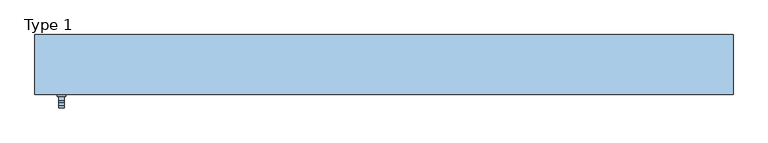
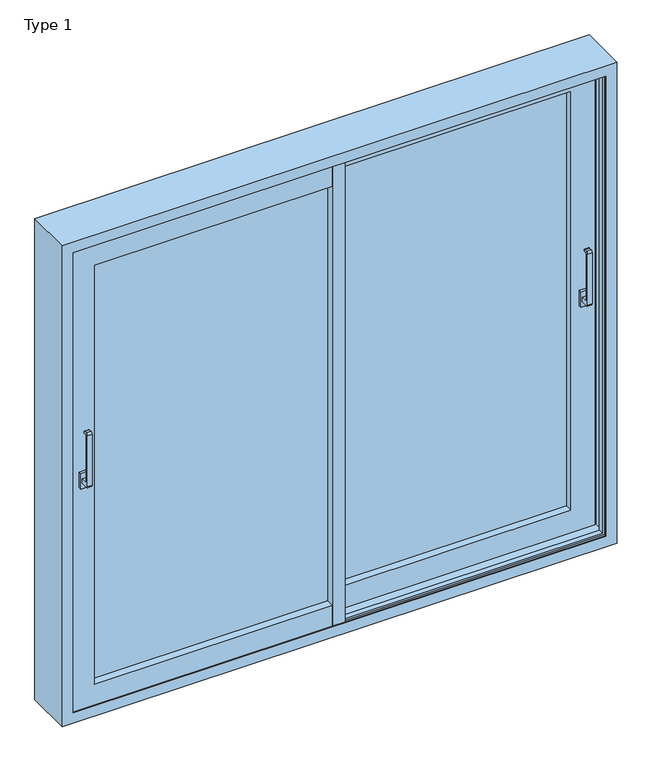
"""IFC4 building model written with IfcOpenShell, lengths in millimetres: window geometry, ETEM_ES70_Double_Fly Screen_NI_Lift_Sliding : Type 1."""

import ifcopenshell
import ifcopenshell.guid

model = None  # the IFC model being written
_history = None  # IfcOwnerHistory: only IFC2X3 demands one
_inside = {}  # id of a spatial element -> (the spatial element, [elements in it])
_under = {}  # id of a project, library or spatial element -> (it, [spatial elements below it])
_declared = {}  # id of a project -> (the project, [libraries it declares])
_typed = {}  # id of a type object -> (the type object, [elements of that type])
_made_of = {}  # id of a material, layer set ... -> (it, [elements and type objects made of it])


def new_model(schema):
    """Start an empty IFC model of exactly this schema.

    Asked for "IFC4X3", IfcOpenShell would pick the latest addendum, in which some entities
    have other attributes; the version numbers below select the first issue.
    IFC2X3 requires an IfcOwnerHistory on every rooted entity: one is made here for all.
    """
    global model, _history
    if schema == "IFC4X3":
        model = ifcopenshell.file(schema_version=(4, 3, 0, 0))
    else:
        model = ifcopenshell.file(schema=schema)
    _inside.clear()
    _under.clear()
    _declared.clear()
    _typed.clear()
    _made_of.clear()
    _history = None
    if model.schema == "IFC2X3":
        org = make("IfcOrganization", Name="unknown")
        user = make(
            "IfcPersonAndOrganization",
            ThePerson=make("IfcPerson", FamilyName="unknown"),
            TheOrganization=org,
        )
        app = make(
            "IfcApplication",
            ApplicationDeveloper=org,
            Version="unknown",
            ApplicationFullName="unknown",
            ApplicationIdentifier="unknown",
        )
        _history = make(
            "IfcOwnerHistory",
            OwningUser=user,
            OwningApplication=app,
            ChangeAction="ADDED",
            CreationDate=0,
        )
    return model


def make(cls, **values):
    """One entity of the class cls with the attributes given. An attribute that is None is left unset."""
    return model.create_entity(
        cls, **{name: value for name, value in values.items() if value is not None}
    )


def rooted(cls, **values):
    """An entity with a GlobalId (a new one), such as an element, a storey or a relation."""
    return make(cls, GlobalId=ifcopenshell.guid.new(), OwnerHistory=_history, **values)


def si_unit(unit_type, name, prefix=None):
    """IfcSIUnit, for example si_unit("LENGTHUNIT", "METRE", prefix="MILLI")."""
    return make("IfcSIUnit", UnitType=unit_type, Prefix=prefix, Name=name)


def assignment(units):
    """IfcUnitAssignment: the units of a project."""
    return None if units is None else make("IfcUnitAssignment", Units=units)


def point(xyz):
    """IfcCartesianPoint."""
    return None if xyz is None else make("IfcCartesianPoint", Coordinates=xyz)


def direction(xyz):
    """IfcDirection."""
    return None if xyz is None else make("IfcDirection", DirectionRatios=xyz)


def frame(location, z_axis=None, x_axis=None):
    """IfcAxis2Placement3D, a coordinate frame: its origin and axes. An axis left out is left unset."""
    return make(
        "IfcAxis2Placement3D",
        Location=point(location),
        Axis=direction(z_axis),
        RefDirection=direction(x_axis),
    )


def frame_2d(location, x_axis=None):
    """IfcAxis2Placement2D, a coordinate frame in the plane: its origin and x axis."""
    return make(
        "IfcAxis2Placement2D", Location=point(location), RefDirection=direction(x_axis)
    )


def origin():
    """The frame at (0, 0, 0) with its axes left unset."""
    return frame((0.0, 0.0, 0.0))


def place(relative_to, where):
    """IfcLocalPlacement: puts the frame where relative to a parent placement (None: the world)."""
    return make(
        "IfcLocalPlacement", PlacementRelTo=relative_to, RelativePlacement=where
    )


def context(
    kind, dimensions, precision=None, world=None, true_north=None, identifier=None
):
    """IfcGeometricRepresentationContext, for example the 3D "Model" context."""
    return make(
        "IfcGeometricRepresentationContext",
        ContextIdentifier=identifier,
        ContextType=kind,
        CoordinateSpaceDimension=dimensions,
        Precision=precision,
        WorldCoordinateSystem=world,
        TrueNorth=true_north,
    )


def project(units=None, contexts=None):
    """IfcProject with its units and contexts."""
    return rooted(
        "IfcProject",
        Name="project",
        RepresentationContexts=contexts,
        UnitsInContext=assignment(units),
    )


def spatial(cls, under=None, at=None, **own):
    """A site, building, storey or space (cls), placed at a placement, below another one or the project."""
    s = rooted(cls, ObjectPlacement=at, **own)
    if under is not None:
        _under.setdefault(under.id(), (under, []))[1].append(s)
    return s


def polyline(points):
    """IfcPolyline through the points."""
    return make("IfcPolyline", Points=[point(p) for p in points])


def circle_curve(where, radius):
    """IfcCircle in the frame where."""
    return make("IfcCircle", Position=where, Radius=radius)


def ellipse_curve(where, semi_axis1, semi_axis2):
    """IfcEllipse in the frame where."""
    return make(
        "IfcEllipse", Position=where, SemiAxis1=semi_axis1, SemiAxis2=semi_axis2
    )


def trimmed(basis, trim1, trim2, sense, master):
    """IfcTrimmedCurve: the piece of a basis curve between two trims."""
    return make(
        "IfcTrimmedCurve",
        BasisCurve=basis,
        Trim1=trim1,
        Trim2=trim2,
        SenseAgreement=sense,
        MasterRepresentation=master,
    )


def segment(curve, same_sense, transition):
    """IfcCompositeCurveSegment."""
    return make(
        "IfcCompositeCurveSegment",
        Transition=transition,
        SameSense=same_sense,
        ParentCurve=curve,
    )


def composite_curve(segments, self_intersect=None):
    """IfcCompositeCurve: segments joined end to end."""
    return make("IfcCompositeCurve", Segments=segments, SelfIntersect=self_intersect)


def outline(outer, holes=None, kind="AREA"):
    """IfcArbitraryClosedProfileDef: a profile drawn as a closed curve; with holes, ...WithVoids."""
    if holes is None:
        return make("IfcArbitraryClosedProfileDef", ProfileType=kind, OuterCurve=outer)
    return make(
        "IfcArbitraryProfileDefWithVoids",
        ProfileType=kind,
        OuterCurve=outer,
        InnerCurves=holes,
    )


def extrude(swept, where, along, depth):
    """IfcExtrudedAreaSolid: the profile swept, set in the frame where, extruded along a direction by depth."""
    return make(
        "IfcExtrudedAreaSolid",
        SweptArea=swept,
        Position=where,
        ExtrudedDirection=direction(along),
        Depth=depth,
    )


def faces_of(points, faces, orient=None, outer=None):
    """IfcFace entities. A face is a list of loops; a loop is a list of indices into points, from 0.

    orient and outer hold one flag for each loop. By default every Orientation is true, the
    first loop of a face is its IfcFaceOuterBound and the others are IfcFaceBound.
    """
    made = []
    for i, loops in enumerate(faces):
        bounds = []
        for j, loop in enumerate(loops):
            is_outer = j == 0 if outer is None else outer[i][j]
            bounds.append(
                make(
                    "IfcFaceOuterBound" if is_outer else "IfcFaceBound",
                    Bound=make("IfcPolyLoop", Polygon=[points[k] for k in loop]),
                    Orientation=True if orient is None else orient[i][j],
                )
            )
        made.append(make("IfcFace", Bounds=bounds))
    return made


def faceted_brep(points, faces, orient=None, outer=None, voids=None):
    """IfcFacetedBrep: a solid bounded by flat faces; with voids (closed shells), ...WithVoids."""
    shared = [point(p) for p in points]
    hull = make("IfcClosedShell", CfsFaces=faces_of(shared, faces, orient, outer))
    if voids is None:
        return make("IfcFacetedBrep", Outer=hull)
    return make(
        "IfcFacetedBrepWithVoids",
        Outer=hull,
        Voids=[
            make(cls, CfsFaces=faces_of(shared, fs, o, b)) for cls, fs, o, b in voids
        ],
    )


def shape(context_of_items, identifier, shape_type, items):
    """IfcShapeRepresentation: the items that make up one representation, for example the "Body"."""
    return make(
        "IfcShapeRepresentation",
        ContextOfItems=context_of_items,
        RepresentationIdentifier=identifier,
        RepresentationType=shape_type,
        Items=items,
    )


def source(mapping_origin, context_of_items, identifier, shape_type, items):
    """IfcRepresentationMap: a shape defined once, which mapped items show again and again."""
    return make(
        "IfcRepresentationMap",
        MappingOrigin=mapping_origin,
        MappedRepresentation=shape(context_of_items, identifier, shape_type, items),
    )


def transform(
    local_origin,
    x_axis=None,
    y_axis=None,
    z_axis=None,
    scale=None,
    scale2=None,
    scale3=None,
    uniform=True,
):
    """IfcCartesianTransformationOperator3D, or its non-uniform kind. x_axis, y_axis, z_axis: its Axis1, 2, 3."""
    if uniform:
        return make(
            "IfcCartesianTransformationOperator3D",
            Axis1=direction(x_axis),
            Axis2=direction(y_axis),
            LocalOrigin=point(local_origin),
            Scale=scale,
            Axis3=direction(z_axis),
        )
    return make(
        "IfcCartesianTransformationOperator3DnonUniform",
        Axis1=direction(x_axis),
        Axis2=direction(y_axis),
        LocalOrigin=point(local_origin),
        Scale=scale,
        Axis3=direction(z_axis),
        Scale2=scale2,
        Scale3=scale3,
    )


def mapped(mapping_source, mapping_target):
    """IfcMappedItem: shows the shape of a source again, moved by a transform."""
    return make(
        "IfcMappedItem", MappingSource=mapping_source, MappingTarget=mapping_target
    )


def made_of(thing, what):
    """Note that an element or type object is made of a material, layer set ...; save() writes the relation."""
    if what is not None:
        _made_of.setdefault(what.id(), (what, []))[1].append(thing)
    return thing


def element(
    cls,
    number,
    at=None,
    inside=None,
    cuts=None,
    type_object=None,
    material=None,
    context=None,
    identifier="Body",
    shape_type=None,
    held_by="IfcProductDefinitionShape",
    body=None,
    shapes=None,
    **own,
):
    """One element of the class cls, such as IfcWall. Its Tag is "e" and its number.

    at: its placement. inside: the storey or other place that contains it. cuts: it is an
    opening in that element (IfcRelVoidsElement). A single representation is given by context,
    identifier, shape_type and body (its items); several are given by shapes. held_by: the class
    of the entity that holds the representations. save() writes the other relations.
    """
    e = rooted(cls, Tag="e%d" % number, ObjectPlacement=at, **own)
    if body is not None:
        shapes = [shape(context, identifier, shape_type, body)]
    if shapes is not None:
        e.Representation = make(held_by, Representations=shapes)
    if inside is not None:
        _inside.setdefault(inside.id(), (inside, []))[1].append(e)
    if cuts is not None:
        rooted(
            "IfcRelVoidsElement", RelatingBuildingElement=cuts, RelatedOpeningElement=e
        )
    if type_object is not None:
        _typed.setdefault(type_object.id(), (type_object, []))[1].append(e)
    return made_of(e, material)


def aggregate(whole, parts):
    """IfcRelAggregates: a whole, such as a stair, and the parts it consists of."""
    return rooted("IfcRelAggregates", RelatingObject=whole, RelatedObjects=parts)


def save(model, path):
    """Write the relations noted so far, then the file.

    IfcRelAggregates (storeys below a building ...), IfcRelContainedInSpatialStructure (elements
    in a storey), IfcRelDefinesByType, IfcRelAssociatesMaterial and IfcRelDeclares: one each for
    every whole, place, type object, material and project.
    """
    for whole, parts in _under.values():
        aggregate(whole, parts)
    for where, things in _inside.values():
        rooted(
            "IfcRelContainedInSpatialStructure",
            RelatedElements=things,
            RelatingStructure=where,
        )
    for kind, things in _typed.values():
        rooted("IfcRelDefinesByType", RelatedObjects=things, RelatingType=kind)
    for what, things in _made_of.values():
        rooted("IfcRelAssociatesMaterial", RelatedObjects=things, RelatingMaterial=what)
    for by, libraries in _declared.values():
        rooted("IfcRelDeclares", RelatingContext=by, RelatedDefinitions=libraries)
    model.write(path)


def plane_surface(at):
    """IfcPlane: the flat surface through the origin of the frame at, square to its z axis."""
    return make("IfcPlane", Position=at)


def cylinder_surface(at, radius):
    """IfcCylindricalSurface: all points at the distance radius from the z axis of the frame at."""
    return make("IfcCylindricalSurface", Position=at, Radius=radius)


def revolved_surface(curve, axis_point, axis_direction):
    """IfcSurfaceOfRevolution: the curve turned about the line through axis_point along axis_direction."""
    return make(
        "IfcSurfaceOfRevolution",
        SweptCurve=make("IfcArbitraryOpenProfileDef", ProfileType="CURVE", Curve=curve),
        AxisPosition=make("IfcAxis1Placement", Location=point(axis_point), Axis=direction(axis_direction)),
    )


def advanced_brep(points, edges, surfaces, faces):
    """IfcAdvancedBrep: a solid bounded by faces that lie on surfaces and meet in shared edges.

    An edge is (start, end): straight between two places in points (the first is 0);
    or (start, end, curve); or (start, end, curve, False) where it runs against its curve.
    A face is (place in surfaces, loops), or (place, loops, False) where it looks against
    its surface's normal. A loop lists edges by number (the first is 1), with a minus sign
    where the edge is run from its end to its start. The first loop is the outer one.
    """
    corners = [point(p) for p in points]
    vertices = [make("IfcVertexPoint", VertexGeometry=c) for c in corners]
    made = []
    for start, end, *more in edges:
        made.append(
            make(
                "IfcEdgeCurve",
                EdgeStart=vertices[start],
                EdgeEnd=vertices[end],
                EdgeGeometry=more[0] if more else make("IfcPolyline", Points=[corners[start], corners[end]]),
                SameSense=more[1] if len(more) > 1 else True,
            )
        )
    hull = []
    for where, loops, *sense in faces:
        bounds = []
        for j, loop in enumerate(loops):
            ring = [make("IfcOrientedEdge", EdgeElement=made[abs(k) - 1], Orientation=k > 0) for k in loop]
            bounds.append(
                make(
                    "IfcFaceOuterBound" if j == 0 else "IfcFaceBound",
                    Bound=make("IfcEdgeLoop", EdgeList=ring),
                    Orientation=True,
                )
            )
        hull.append(make("IfcAdvancedFace", Bounds=bounds, FaceSurface=surfaces[where], SameSense=sense[0] if sense else True))
    return make("IfcAdvancedBrep", Outer=make("IfcClosedShell", CfsFaces=hull))


def type_1_cdd2e482(model_context):
    return source(origin(), model_context, "Body", "SolidModel", [
        extrude(outline(polyline([(1123.5, 7.6), (1093.5, 7.6), (1093.5, 20.6), (1123.5, 20.6), (1123.5, 7.6)])), frame((0.0, 0.0, 1065.0), z_axis=(0.0, 0.0, 1.0), x_axis=(1.0, 0.0, 0.0)), (0.0, 0.0, 1.0), 70.0),
        extrude(outline(composite_curve([segment(polyline([(7.6, 1090.0), (-23.9736848, 1090.0)]), True, "CONTINUOUS"), segment(trimmed(circle_curve(frame_2d((-23.9736848, 1098.4263152)), 8.4263152), [point((-23.9736848, 1090.0))], [point((-32.4, 1098.4263152))], False, "CARTESIAN"), True, "CONTINUOUS"), segment(polyline([(-32.4, 1098.4263152), (-32.4, 1331.5736848)]), True, "CONTINUOUS"), segment(trimmed(circle_curve(frame_2d((-23.9736848, 1331.5736848)), 8.4263152), [point((-32.4, 1331.5736848))], [point((-23.9736848, 1340.0))], False, "CARTESIAN"), True, "CONTINUOUS"), segment(polyline([(-23.9736848, 1340.0), (-12.4, 1340.0)]), True, "CONTINUOUS"), segment(trimmed(circle_curve(frame_2d((-12.4, 1335.0)), 5.0), [point((-12.4, 1340.0))], [point((-12.4, 1330.0))], False, "CARTESIAN"), True, "CONTINUOUS"), segment(polyline([(-12.4, 1330.0), (-18.8644661, 1330.0)]), True, "CONTINUOUS"), segment(trimmed(circle_curve(frame_2d((-18.8644661, 1326.4644661)), 3.5355339), [point((-18.8644661, 1330.0))], [point((-22.4, 1326.4644661))], True, "CARTESIAN"), True, "CONTINUOUS"), segment(polyline([(-22.4, 1326.4644661), (-22.4, 1113.5355339)]), True, "CONTINUOUS"), segment(trimmed(circle_curve(frame_2d((-18.8644661, 1113.5355339)), 3.5355339), [point((-22.4, 1113.5355339))], [point((-18.8644661, 1110.0))], True, "CARTESIAN"), True, "CONTINUOUS"), segment(polyline([(-18.8644661, 1110.0), (7.6, 1110.0), (7.6, 1090.0)]), True, "CONTINUOUS")], self_intersect=False)), frame((1098.5, 0.0, 0.0), z_axis=(1.0, 0.0, 0.0), x_axis=(0.0, 1.0, 0.0)), (0.0, 0.0, 1.0), 20.0),
        extrude(outline(polyline([(-1093.5, -82.4), (-1123.5, -82.4), (-1123.5, -69.4), (-1093.5, -69.4), (-1093.5, -82.4)])), frame((0.0, 0.0, 1065.0), z_axis=(0.0, 0.0, 1.0), x_axis=(1.0, 0.0, 0.0)), (0.0, 0.0, 1.0), 70.0),
        extrude(outline(composite_curve([segment(polyline([(-82.4, 1090.0), (-113.9736848, 1090.0)]), True, "CONTINUOUS"), segment(trimmed(circle_curve(frame_2d((-113.9736848, 1098.4263152)), 8.4263152), [point((-113.9736848, 1090.0))], [point((-122.4, 1098.4263152))], False, "CARTESIAN"), True, "CONTINUOUS"), segment(polyline([(-122.4, 1098.4263152), (-122.4, 1331.5736848)]), True, "CONTINUOUS"), segment(trimmed(circle_curve(frame_2d((-113.9736848, 1331.5736848)), 8.4263152), [point((-122.4, 1331.5736848))], [point((-113.9736848, 1340.0))], False, "CARTESIAN"), True, "CONTINUOUS"), segment(polyline([(-113.9736848, 1340.0), (-102.4, 1340.0)]), True, "CONTINUOUS"), segment(trimmed(circle_curve(frame_2d((-102.4, 1335.0)), 5.0), [point((-102.4, 1340.0))], [point((-102.4, 1330.0))], False, "CARTESIAN"), True, "CONTINUOUS"), segment(polyline([(-102.4, 1330.0), (-108.8644661, 1330.0)]), True, "CONTINUOUS"), segment(trimmed(circle_curve(frame_2d((-108.8644661, 1326.4644661)), 3.5355339), [point((-108.8644661, 1330.0))], [point((-112.4, 1326.4644661))], True, "CARTESIAN"), True, "CONTINUOUS"), segment(polyline([(-112.4, 1326.4644661), (-112.4, 1113.5355339)]), True, "CONTINUOUS"), segment(trimmed(circle_curve(frame_2d((-108.8644661, 1113.5355339)), 3.5355339), [point((-112.4, 1113.5355339))], [point((-108.8644661, 1110.0))], True, "CARTESIAN"), True, "CONTINUOUS"), segment(polyline([(-108.8644661, 1110.0), (-82.4, 1110.0), (-82.4, 1090.0)]), True, "CONTINUOUS")], self_intersect=False)), frame((-1118.5, 0.0, 0.0), z_axis=(1.0, 0.0, 0.0), x_axis=(0.0, 1.0, 0.0)), (0.0, 0.0, 1.0), 20.0),
        faceted_brep([(-27.0, -57.0, 39.0), (-27.0, -69.4, 39.0), (-1161.0, -69.4, 39.0), (-1161.0, -57.0, 39.0), (-27.0, -11.8, 70.1), (-27.0, -57.0, 70.1), (-1129.9, -57.0, 70.1), (-1129.9, -11.8, 70.1), (-27.0, 0.6, 39.0), (-27.0, -11.8, 39.0), (-1161.0, -11.8, 39.0), (-1161.0, 0.6, 39.0), (-27.0, -69.4, 142.0), (-27.0, 0.6, 142.0), (-1058.0, 0.6, 142.0), (-1058.0, -69.4, 142.0), (-1161.0, -69.4, 2161.0), (-1161.0, -57.0, 2161.0), (-1129.9, -57.0, 2129.9), (-1129.9, -11.8, 2129.9), (-1161.0, -11.8, 2161.0), (-1161.0, 0.6, 2161.0), (-1058.0, 0.6, 2058.0), (-1058.0, -69.4, 2058.0), (-27.0, -69.4, 2161.0), (-27.0, -57.0, 2161.0), (-27.0, -57.0, 2129.9), (-27.0, -11.8, 2129.9), (-27.0, -11.8, 2161.0), (-27.0, 0.6, 2161.0), (-27.0, 0.6, 2058.0), (-27.0, -69.4, 2058.0)], [[[0, 1, 2, 3]], [[4, 5, 6, 7]], [[8, 9, 10, 11]], [[12, 13, 14, 15]], [[3, 2, 16, 17]], [[7, 6, 18, 19]], [[11, 10, 20, 21]], [[15, 14, 22, 23]], [[17, 16, 24, 25]], [[19, 18, 26, 27]], [[21, 20, 28, 29]], [[23, 22, 30, 31]], [[12, 1, 0, 5, 4, 9, 8, 13]], [[1, 12, 15, 23, 31, 24, 16, 2]], [[5, 0, 3, 17, 25, 26, 18, 6]], [[9, 4, 7, 19, 27, 28, 20, 10]], [[13, 8, 11, 21, 29, 30, 22, 14]], [[31, 30, 29, 28, 27, 26, 25, 24]]]),
        extrude(outline(polyline([(27.0, -69.4), (-27.0, -69.4), (-27.0, 0.6), (18.6, 0.6), (18.6, 16.6), (27.0, 16.6), (27.0, -69.4)])), frame((0.0, 0.0, 39.0), z_axis=(0.0, 0.0, 1.0), x_axis=(1.0, 0.0, 0.0)), (0.0, 0.0, 1.0), 2122.0),
        extrude(outline(polyline([(-27.0, 90.6), (27.0, 90.6), (27.0, 20.6), (-18.6, 20.6), (-18.6, 4.6), (-27.0, 4.6), (-27.0, 90.6)])), frame((0.0, 0.0, 39.0), z_axis=(0.0, 0.0, 1.0), x_axis=(1.0, 0.0, 0.0)), (0.0, 0.0, 1.0), 2122.0),
        extrude(outline(polyline([(-27.0, -35.3992409), (-1058.0, -35.3992409), (-1058.0, -29.3992409), (-27.0, -29.3992409), (-27.0, -35.3992409)])), frame((0.0, 0.0, 142.0), z_axis=(0.0, 0.0, 1.0), x_axis=(1.0, 0.0, 0.0)), (0.0, 0.0, 1.0), 1916.0),
        extrude(outline(polyline([(27.0, 82.6007591), (1058.0, 82.6007591), (1058.0, 76.6007591), (27.0, 76.6007591), (27.0, 82.6007591)])), frame((0.0, 0.0, 142.0), z_axis=(0.0, 0.0, 1.0), x_axis=(1.0, 0.0, 0.0)), (0.0, 0.0, 1.0), 1916.0),
        faceted_brep([(1200.0, -76.0, 2200.0), (1200.0, -76.0, 0.0), (1200.0, 130.0, 0.0), (1200.0, 130.0, 2200.0), (-1200.0, -76.0, 2200.0), (-1200.0, -76.0, 0.0), (1152.0, -76.0, 48.0), (-1152.0, -76.0, 48.0), (-1152.0, -76.0, 2152.0), (1152.0, -76.0, 2152.0), (-1200.0, 130.0, 0.0), (-1200.0, 130.0, 2200.0), (1183.7, 130.0, 2183.7), (-1183.7, 130.0, 2183.7), (-1183.7, 130.0, 16.3), (1183.7, 130.0, 16.3), (1183.7, 60.1, 2183.7), (1183.7, 109.1, 2183.7), (1183.7, 109.1, 16.3), (1183.7, 60.1, 16.3), (-1183.7, 109.1, 2183.7), (-1183.7, 109.1, 16.3), (1152.0, 109.1, 48.0), (-1152.0, 109.1, 48.0), (-1152.0, 109.1, 2152.0), (1152.0, 109.1, 2152.0), (-1183.7, 60.1, 16.3), (-1183.7, 60.1, 2183.7), (1160.0, 60.1, 2160.0), (-1160.0, 60.1, 2160.0), (-1160.0, 60.1, 40.0), (1160.0, 60.1, 40.0), (1160.0, 74.1, 2160.0), (1160.0, 74.1, 40.0), (-1160.0, 74.1, 40.0), (-1160.0, 74.1, 2160.0), (1152.0, 74.1, 2152.0), (-1152.0, 74.1, 2152.0), (-1152.0, 74.1, 48.0), (1152.0, 74.1, 48.0), (1152.0, 51.1, 2152.0), (1152.0, 51.1, 48.0), (-1152.0, 51.1, 48.0), (1183.7, 51.1, 2183.7), (-1183.7, 51.1, 2183.7), (-1183.7, 51.1, 16.3), (1183.7, 51.1, 16.3), (-1152.0, 51.1, 2152.0), (1183.7, -29.9, 2183.7), (1183.7, -29.9, 16.3), (-1183.7, -29.9, 16.3), (-1183.7, -29.9, 2183.7), (1152.0, -29.9, 2152.0), (-1152.0, -29.9, 2152.0), (-1152.0, -29.9, 48.0), (1152.0, -29.9, 48.0), (1152.0, -52.9, 2152.0), (1152.0, -52.9, 48.0), (-1152.0, -52.9, 48.0), (1160.0, -52.9, 2160.0), (-1160.0, -52.9, 2160.0), (-1160.0, -52.9, 40.0), (1160.0, -52.9, 40.0), (-1152.0, -52.9, 2152.0), (1160.0, -38.9, 2160.0), (1160.0, -38.9, 40.0), (-1160.0, -38.9, 40.0), (1183.7, -38.9, 2183.7), (-1183.7, -38.9, 2183.7), (-1183.7, -38.9, 16.3), (1183.7, -38.9, 16.3), (-1160.0, -38.9, 2160.0), (1183.7, -72.2, 2183.7), (1183.7, -72.2, 16.3), (-1183.7, -72.2, 16.3), (-1183.7, -72.2, 2183.7), (1152.0, -72.2, 2152.0), (-1152.0, -72.2, 2152.0), (-1152.0, -72.2, 48.0), (1152.0, -72.2, 48.0), (-1183.7, 118.1, 16.3), (-1183.7, 118.1, 2183.7), (1183.7, 118.1, 16.3), (1183.7, 118.1, 2183.7), (1152.0, 118.1, 2152.0), (-1152.0, 118.1, 2152.0), (-1152.0, 118.1, 48.0), (1152.0, 118.1, 48.0)], [[[0, 1, 2, 3]], [[0, 4, 5, 1], [6, 7, 8, 9]], [[2, 1, 5, 10]], [[2, 10, 11, 3], [12, 13, 14, 15]], [[16, 17, 18, 19]], [[17, 20, 21, 18], [22, 23, 24, 25]], [[19, 18, 21, 26]], [[19, 26, 27, 16], [28, 29, 30, 31]], [[32, 28, 31, 33]], [[33, 31, 30, 34]], [[33, 34, 35, 32], [36, 37, 38, 39]], [[40, 36, 39, 41]], [[41, 39, 38, 42]], [[43, 44, 45, 46], [41, 42, 47, 40]], [[48, 43, 46, 49]], [[49, 46, 45, 50]], [[49, 50, 51, 48], [52, 53, 54, 55]], [[56, 52, 55, 57]], [[57, 55, 54, 58]], [[59, 60, 61, 62], [57, 58, 63, 56]], [[64, 59, 62, 65]], [[65, 62, 61, 66]], [[67, 68, 69, 70], [65, 66, 71, 64]], [[72, 67, 70, 73]], [[73, 70, 69, 74]], [[73, 74, 75, 72], [76, 77, 78, 79]], [[9, 76, 79, 6]], [[6, 79, 78, 7]], [[10, 5, 4, 11]], [[26, 21, 20, 27]], [[34, 30, 29, 35]], [[42, 38, 37, 47]], [[50, 45, 44, 51]], [[58, 54, 53, 63]], [[66, 61, 60, 71]], [[74, 69, 68, 75]], [[7, 78, 77, 8]], [[80, 14, 13, 81]], [[82, 15, 14, 80]], [[83, 12, 15, 82]], [[82, 80, 81, 83], [84, 85, 86, 87]], [[25, 84, 87, 22]], [[22, 87, 86, 23]], [[23, 86, 85, 24]], [[11, 4, 0, 3]], [[27, 20, 17, 16]], [[35, 29, 28, 32]], [[47, 37, 36, 40]], [[51, 44, 43, 48]], [[63, 53, 52, 56]], [[71, 60, 59, 64]], [[75, 68, 67, 72]], [[8, 77, 76, 9]], [[81, 13, 12, 83]], [[24, 85, 84, 25]]]),
        extrude(outline(polyline([(27.0, 60.6007591), (1058.0, 60.6007591), (1058.0, 54.6007591), (27.0, 54.6007591), (27.0, 60.6007591)])), frame((0.0, 0.0, 142.0), z_axis=(0.0, 0.0, 1.0), x_axis=(1.0, 0.0, 0.0)), (0.0, 0.0, 1.0), 1916.0),
        extrude(outline(polyline([(-27.0, -13.3992409), (-1058.0, -13.3992409), (-1058.0, -7.3992409), (-27.0, -7.3992409), (-27.0, -13.3992409)])), frame((0.0, 0.0, 142.0), z_axis=(0.0, 0.0, 1.0), x_axis=(1.0, 0.0, 0.0)), (0.0, 0.0, 1.0), 1916.0),
        extrude(outline(polyline([(-34.0, 101.6138518), (-1100.0, 101.6138518), (-1100.0, 102.6138518), (-34.0, 102.6138518), (-34.0, 101.6138518)])), frame((0.0, 0.0, 100.0), z_axis=(0.0, 0.0, 1.0), x_axis=(1.0, 0.0, 0.0)), (0.0, 0.0, 1.0), 2000.0),
        advanced_brep(
        [(-30.6, 98.8, 2103.4), (-30.6, 102.6138518, 2103.4), (-30.6, 102.6138518, 96.6), (-30.6, 98.8, 96.6), (-1103.4, 102.6138518, 2103.4), (-1103.4, 102.6138518, 96.6), (-38.0, 102.6138518, 104.0), (-1096.0, 102.6138518, 104.0), (-1096.0, 102.6138518, 2096.0), (-38.0, 102.6138518, 2096.0), (-1103.4, 98.8, 96.6), (-28.6, 98.8, 2105.4), (-1105.4, 98.8, 2105.4), (-1105.4, 98.8, 94.6), (-28.6, 98.8, 94.6), (-1103.4, 98.8, 2103.4), (-28.6543214, 99.9975359, 2105.3456786), (-28.6543214, 99.9975359, 94.6543214), (-1105.3456786, 99.9975359, 94.6543214), (-29.2, 100.5, 2104.8), (-29.2, 100.5, 95.2), (-1104.8, 100.5, 95.2), (-29.2, 106.6, 2104.8), (-29.2, 106.6, 95.2), (-1104.8, 106.6, 95.2), (-8.7, 106.6, 2125.3), (-1125.3, 106.6, 2125.3), (-1125.3, 106.6, 74.7), (-8.7, 106.6, 74.7), (-1104.8, 106.6, 2104.8), (-8.7, 97.6, 2125.3), (-8.7, 97.6, 74.7), (-1125.3, 97.6, 74.7), (27.0, 97.6, 2161.0), (-1161.0, 97.6, 2161.0), (-1161.0, 97.6, 39.0), (27.0, 97.6, 39.0), (-1125.3, 97.6, 2125.3), (27.0, 104.8, 2161.0), (27.0, 104.8, 39.0), (-1161.0, 104.8, 39.0), (-1161.0, 104.8, 2161.0), (14.8, 104.8, 2148.8), (-1148.8, 104.8, 2148.8), (-1148.8, 104.8, 51.2), (14.8, 104.8, 51.2), (14.8, 122.4, 2148.8), (14.8, 122.4, 51.2), (-1148.8, 122.4, 51.2), (27.0, 122.4, 2161.0), (-1161.0, 122.4, 2161.0), (-1161.0, 122.4, 39.0), (27.0, 122.4, 39.0), (-1148.8, 122.4, 2148.8), (27.0, 129.6, 2161.0), (27.0, 129.6, 39.0), (-1161.0, 129.6, 39.0), (-1161.0, 129.6, 2161.0), (-8.7, 129.6, 2125.3), (-1125.3, 129.6, 2125.3), (-1125.3, 129.6, 74.7), (-8.7, 129.6, 74.7), (-8.7, 120.4, 2125.3), (-8.7, 120.4, 74.7), (-1125.3, 120.4, 74.7), (-1125.3, 120.4, 2125.3), (-25.5, 120.4, 2108.5), (-1108.5, 120.4, 2108.5), (-1108.5, 120.4, 91.5), (-25.5, 120.4, 91.5), (-25.5, 129.6, 2108.5), (-25.5, 129.6, 91.5), (-1108.5, 129.6, 91.5), (-1108.5, 129.6, 2108.5), (-38.0, 129.6, 2096.0), (-1096.0, 129.6, 2096.0), (-1096.0, 129.6, 104.0), (-38.0, 129.6, 104.0), (-1105.3456786, 99.9975359, 2105.3456786), (-1104.8, 100.5, 2104.8)],
        [
            (0, 1),
            (1, 2),
            (2, 3),
            (3, 0),
            (1, 4),
            (4, 5),
            (5, 2),
            (6, 7),
            (7, 8),
            (8, 9),
            (9, 6),
            (5, 10),
            (10, 3),
            (11, 12),
            (12, 13),
            (13, 14),
            (14, 11),
            (10, 15),
            (15, 0),
            (16, 11, ellipse_curve(frame((-28.6, 99.4, 2105.4), z_axis=(0.7071067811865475, 0.0, -0.7071067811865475), x_axis=(0.7071067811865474, 0.0, 0.7071067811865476)), 0.8485281, 0.6)),
            (14, 17, ellipse_curve(frame((-28.6, 99.4, 94.6), z_axis=(0.7071067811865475, 0.0, 0.7071067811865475), x_axis=(-0.7071067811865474, 0.0, 0.7071067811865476)), 0.8485281, 0.6)),
            (17, 16),
            (13, 18, ellipse_curve(frame((-1105.4, 99.4, 94.6), z_axis=(0.7071067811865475, 0.0, -0.7071067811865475), x_axis=(0.7071067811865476, 0.0, 0.7071067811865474)), 0.8485281, 0.6)),
            (18, 17),
            (19, 16, ellipse_curve(frame((-28.7, 100.5, 2105.3), z_axis=(-0.7071067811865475, 0.0, 0.7071067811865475), x_axis=(-0.7071067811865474, 0.0, -0.7071067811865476)), 0.7071068, 0.5)),
            (17, 20, ellipse_curve(frame((-28.7, 100.5, 94.7), z_axis=(-0.7071067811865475, 0.0, -0.7071067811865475), x_axis=(0.7071067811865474, 0.0, -0.7071067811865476)), 0.7071068, 0.5)),
            (20, 19),
            (18, 21, ellipse_curve(frame((-1105.3, 100.5, 94.7), z_axis=(-0.7071067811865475, 0.0, 0.7071067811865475), x_axis=(-0.7071067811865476, 0.0, -0.7071067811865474)), 0.7071068, 0.5)),
            (21, 20),
            (22, 19),
            (20, 23),
            (23, 22),
            (21, 24),
            (24, 23),
            (25, 26),
            (26, 27),
            (27, 28),
            (28, 25),
            (24, 29),
            (29, 22),
            (30, 25),
            (28, 31),
            (31, 30),
            (27, 32),
            (32, 31),
            (33, 34),
            (34, 35),
            (35, 36),
            (36, 33),
            (32, 37),
            (37, 30),
            (38, 33),
            (36, 39),
            (39, 38),
            (35, 40),
            (40, 39),
            (40, 41),
            (41, 38),
            (42, 43),
            (43, 44),
            (44, 45),
            (45, 42),
            (46, 42),
            (45, 47),
            (47, 46),
            (44, 48),
            (48, 47),
            (49, 50),
            (50, 51),
            (51, 52),
            (52, 49),
            (48, 53),
            (53, 46),
            (54, 49),
            (52, 55),
            (55, 54),
            (51, 56),
            (56, 55),
            (56, 57),
            (57, 54),
            (58, 59),
            (59, 60),
            (60, 61),
            (61, 58),
            (62, 58),
            (61, 63),
            (63, 62),
            (60, 64),
            (64, 63),
            (64, 65),
            (65, 62),
            (66, 67),
            (67, 68),
            (68, 69),
            (69, 66),
            (70, 66),
            (69, 71),
            (71, 70),
            (68, 72),
            (72, 71),
            (72, 73),
            (73, 70),
            (74, 75),
            (75, 76),
            (76, 77),
            (77, 74),
            (9, 74),
            (77, 6),
            (76, 7),
            (4, 15),
            (12, 78, ellipse_curve(frame((-1105.4, 99.4, 2105.4), z_axis=(-0.7071067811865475, 0.0, -0.7071067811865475), x_axis=(0.7071067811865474, 0.0, -0.7071067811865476)), 0.8485281, 0.6)),
            (78, 18),
            (78, 79, ellipse_curve(frame((-1105.3, 100.5, 2105.3), z_axis=(0.7071067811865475, 0.0, 0.7071067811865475), x_axis=(-0.7071067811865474, 0.0, 0.7071067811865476)), 0.7071068, 0.5)),
            (79, 21),
            (79, 29),
            (26, 37),
            (34, 41),
            (43, 53),
            (50, 57),
            (59, 65),
            (67, 73),
            (75, 8),
            (16, 78),
            (19, 79),
        ],
        [
            plane_surface(frame((-30.6, 102.6138518, 2103.4), z_axis=(-1.0, 0.0, 0.0), x_axis=(0.0, 0.0, -1.0))),
            plane_surface(frame((-1096.0, 102.6138518, 2096.0), z_axis=(0.0, -1.0, 0.0), x_axis=(1.0, 0.0, 0.0))),
            plane_surface(frame((-30.6, 102.6138518, 96.6), z_axis=(0.0, 0.0, 1.0), x_axis=(-1.0, 0.0, 0.0))),
            plane_surface(frame((-1103.4, 98.8, 2103.4), z_axis=(0.0, -1.0, 0.0), x_axis=(1.0, 0.0, 0.0))),
            cylinder_surface(frame((-28.6, 99.4, 2161.0), z_axis=(0.0, 0.0, 1.0), x_axis=(1.0, 0.0, 0.0)), 0.6),
            cylinder_surface(frame((27.0, 99.4, 94.6), z_axis=(1.0, 0.0, 0.0), x_axis=(0.0, 0.0, -1.0)), 0.6),
            revolved_surface(polyline([(-28.2, 100.5, 94.19999998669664), (-28.2, 100.5, 2105.8000000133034)]), (-28.7, 100.5, 2161.0), (0.0, 0.0, -1.0)),
            revolved_surface(polyline([(-1105.8000000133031, 100.5, 94.2), (-28.19999998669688, 100.5, 94.2)]), (27.0, 100.5, 94.7), (-1.0, 0.0, 0.0)),
            plane_surface(frame((-29.2, 100.5, 2104.8), z_axis=(1.0, 0.0, 0.0), x_axis=(0.0, 0.0, -1.0))),
            plane_surface(frame((-29.2, 100.5, 95.2), z_axis=(0.0, 0.0, -1.0), x_axis=(-1.0, 0.0, 0.0))),
            plane_surface(frame((-1104.8, 106.6, 2104.8), z_axis=(0.0, -1.0, 0.0), x_axis=(1.0, 0.0, 0.0))),
            plane_surface(frame((-8.7, 106.6, 2125.3), z_axis=(-1.0, 0.0, 0.0), x_axis=(0.0, 0.0, -1.0))),
            plane_surface(frame((-8.7, 106.6, 74.7), z_axis=(0.0, 0.0, 1.0), x_axis=(-1.0, 0.0, 0.0))),
            plane_surface(frame((-1125.3, 97.6, 2125.3), z_axis=(0.0, -1.0, 0.0), x_axis=(1.0, 0.0, 0.0))),
            plane_surface(frame((27.0, 97.6, 2161.0), z_axis=(1.0, 0.0, 0.0), x_axis=(0.0, 0.0, -1.0))),
            plane_surface(frame((27.0, 97.6, 39.0), z_axis=(0.0, 0.0, -1.0), x_axis=(-1.0, 0.0, 0.0))),
            plane_surface(frame((-1161.0, 104.8, 2161.0), z_axis=(0.0, 1.0, 0.0), x_axis=(1.0, 0.0, 0.0))),
            plane_surface(frame((14.8, 104.8, 2148.8), z_axis=(1.0, 0.0, 0.0), x_axis=(0.0, 0.0, -1.0))),
            plane_surface(frame((14.8, 104.8, 51.2), z_axis=(0.0, 0.0, -1.0), x_axis=(-1.0, 0.0, 0.0))),
            plane_surface(frame((-1148.8, 122.4, 2148.8), z_axis=(0.0, -1.0, 0.0), x_axis=(1.0, 0.0, 0.0))),
            plane_surface(frame((27.0, 122.4, 2161.0), z_axis=(1.0, 0.0, 0.0), x_axis=(0.0, 0.0, -1.0))),
            plane_surface(frame((27.0, 122.4, 39.0), z_axis=(0.0, 0.0, -1.0), x_axis=(-1.0, 0.0, 0.0))),
            plane_surface(frame((-1161.0, 129.6, 2161.0), z_axis=(0.0, 1.0, 0.0), x_axis=(1.0, 0.0, 0.0))),
            plane_surface(frame((-8.7, 129.6, 2125.3), z_axis=(-1.0, 0.0, 0.0), x_axis=(0.0, 0.0, -1.0))),
            plane_surface(frame((-8.7, 129.6, 74.7), z_axis=(0.0, 0.0, 1.0), x_axis=(-1.0, 0.0, 0.0))),
            plane_surface(frame((-1125.3, 120.4, 2125.3), z_axis=(0.0, 1.0, 0.0), x_axis=(1.0, 0.0, 0.0))),
            plane_surface(frame((-25.5, 120.4, 2108.5), z_axis=(1.0, 0.0, 0.0), x_axis=(0.0, 0.0, -1.0))),
            plane_surface(frame((-25.5, 120.4, 91.5), z_axis=(0.0, 0.0, -1.0), x_axis=(-1.0, 0.0, 0.0))),
            plane_surface(frame((-1108.5, 129.6, 2108.5), z_axis=(0.0, 1.0, 0.0), x_axis=(1.0, 0.0, 0.0))),
            plane_surface(frame((-38.0, 129.6, 2096.0), z_axis=(-1.0, 0.0, 0.0), x_axis=(0.0, 0.0, -1.0))),
            plane_surface(frame((-38.0, 129.6, 104.0), z_axis=(0.0, 0.0, 1.0), x_axis=(-1.0, 0.0, 0.0))),
            plane_surface(frame((-1103.4, 102.6138518, 96.6), z_axis=(1.0, 0.0, 0.0), x_axis=(0.0, 0.0, 1.0))),
            cylinder_surface(frame((-1105.4, 99.4, 39.0), z_axis=(0.0, 0.0, -1.0), x_axis=(-1.0, 0.0, 0.0)), 0.6),
            revolved_surface(polyline([(-1105.8, 100.5, 2105.8000000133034), (-1105.8, 100.5, 94.19999998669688)]), (-1105.3, 100.5, 39.0), (0.0, 0.0, 1.0)),
            plane_surface(frame((-1104.8, 100.5, 95.2), z_axis=(-1.0, 0.0, 0.0), x_axis=(0.0, 0.0, 1.0))),
            plane_surface(frame((-1125.3, 106.6, 74.7), z_axis=(1.0, 0.0, 0.0), x_axis=(0.0, 0.0, 1.0))),
            plane_surface(frame((-1161.0, 97.6, 39.0), z_axis=(-1.0, 0.0, 0.0), x_axis=(0.0, 0.0, 1.0))),
            plane_surface(frame((-1148.8, 104.8, 51.2), z_axis=(-1.0, 0.0, 0.0), x_axis=(0.0, 0.0, 1.0))),
            plane_surface(frame((-1161.0, 122.4, 39.0), z_axis=(-1.0, 0.0, 0.0), x_axis=(0.0, 0.0, 1.0))),
            plane_surface(frame((-1125.3, 129.6, 74.7), z_axis=(1.0, 0.0, 0.0), x_axis=(0.0, 0.0, 1.0))),
            plane_surface(frame((-1108.5, 120.4, 91.5), z_axis=(-1.0, 0.0, 0.0), x_axis=(0.0, 0.0, 1.0))),
            plane_surface(frame((-1096.0, 129.6, 104.0), z_axis=(1.0, 0.0, 0.0), x_axis=(0.0, 0.0, 1.0))),
            plane_surface(frame((-1103.4, 102.6138518, 2103.4), z_axis=(0.0, 0.0, -1.0), x_axis=(1.0, 0.0, 0.0))),
            cylinder_surface(frame((-1161.0, 99.4, 2105.4), z_axis=(-1.0, 0.0, 0.0), x_axis=(0.0, 0.0, 1.0)), 0.6),
            revolved_surface(polyline([(-28.199999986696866, 100.5, 2105.8), (-1105.8000000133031, 100.5, 2105.8)]), (-1161.0, 100.5, 2105.3), (1.0, 0.0, 0.0)),
            plane_surface(frame((-1104.8, 100.5, 2104.8), z_axis=(0.0, 0.0, 1.0), x_axis=(1.0, 0.0, 0.0))),
            plane_surface(frame((-1125.3, 106.6, 2125.3), z_axis=(0.0, 0.0, -1.0), x_axis=(1.0, 0.0, 0.0))),
            plane_surface(frame((-1161.0, 97.6, 2161.0), z_axis=(0.0, 0.0, 1.0), x_axis=(1.0, 0.0, 0.0))),
            plane_surface(frame((-1148.8, 104.8, 2148.8), z_axis=(0.0, 0.0, 1.0), x_axis=(1.0, 0.0, 0.0))),
            plane_surface(frame((-1161.0, 122.4, 2161.0), z_axis=(0.0, 0.0, 1.0), x_axis=(1.0, 0.0, 0.0))),
            plane_surface(frame((-1125.3, 129.6, 2125.3), z_axis=(0.0, 0.0, -1.0), x_axis=(1.0, 0.0, 0.0))),
            plane_surface(frame((-1108.5, 120.4, 2108.5), z_axis=(0.0, 0.0, 1.0), x_axis=(1.0, 0.0, 0.0))),
            plane_surface(frame((-1096.0, 129.6, 2096.0), z_axis=(0.0, 0.0, -1.0), x_axis=(1.0, 0.0, 0.0))),
        ],
        [
            (0, [[1, 2, 3, 4]]),
            (1, [[5, 6, 7, -2], [8, 9, 10, 11]]),
            (2, [[-3, -7, 12, 13]]),
            (3, [[14, 15, 16, 17], [-13, 18, 19, -4]]),
            (4, [[20, -17, 21, 22]]),
            (5, [[-21, -16, 23, 24]]),
            (6, [[25, -22, 26, 27]]),
            (7, [[-26, -24, 28, 29]]),
            (8, [[30, -27, 31, 32]]),
            (9, [[-31, -29, 33, 34]]),
            (10, [[35, 36, 37, 38], [-34, 39, 40, -32]]),
            (11, [[41, -38, 42, 43]]),
            (12, [[-42, -37, 44, 45]]),
            (13, [[46, 47, 48, 49], [-45, 50, 51, -43]]),
            (14, [[52, -49, 53, 54]]),
            (15, [[-53, -48, 55, 56]]),
            (16, [[-56, 57, 58, -54], [59, 60, 61, 62]]),
            (17, [[63, -62, 64, 65]]),
            (18, [[-64, -61, 66, 67]]),
            (19, [[68, 69, 70, 71], [-67, 72, 73, -65]]),
            (20, [[74, -71, 75, 76]]),
            (21, [[-75, -70, 77, 78]]),
            (22, [[-78, 79, 80, -76], [81, 82, 83, 84]]),
            (23, [[85, -84, 86, 87]]),
            (24, [[-86, -83, 88, 89]]),
            (25, [[-89, 90, 91, -87], [92, 93, 94, 95]]),
            (26, [[96, -95, 97, 98]]),
            (27, [[-97, -94, 99, 100]]),
            (28, [[-100, 101, 102, -98], [103, 104, 105, 106]]),
            (29, [[107, -106, 108, -11]]),
            (30, [[-108, -105, 109, -8]]),
            (31, [[-12, -6, 110, -18]]),
            (32, [[-23, -15, 111, 112]]),
            (33, [[-28, -112, 113, 114]]),
            (34, [[-33, -114, 115, -39]]),
            (35, [[-44, -36, 116, -50]]),
            (36, [[-55, -47, 117, -57]]),
            (37, [[-66, -60, 118, -72]]),
            (38, [[-77, -69, 119, -79]]),
            (39, [[-88, -82, 120, -90]]),
            (40, [[-99, -93, 121, -101]]),
            (41, [[-109, -104, 122, -9]]),
            (42, [[-110, -5, -1, -19]]),
            (43, [[-111, -14, -20, 123]]),
            (44, [[-113, -123, -25, 124]]),
            (45, [[-115, -124, -30, -40]]),
            (46, [[-116, -35, -41, -51]]),
            (47, [[-117, -46, -52, -58]]),
            (48, [[-118, -59, -63, -73]]),
            (49, [[-119, -68, -74, -80]]),
            (50, [[-120, -81, -85, -91]]),
            (51, [[-121, -92, -96, -102]]),
            (52, [[-122, -103, -107, -10]]),
        ],
    ),
        faceted_brep([(27.0, 90.6, 142.0), (27.0, 90.6, 39.0), (27.0, 78.2, 39.0), (27.0, 78.2, 70.1), (27.0, 33.0, 70.1), (27.0, 33.0, 39.0), (27.0, 20.6, 39.0), (27.0, 20.6, 142.0), (1058.0, 90.6, 142.0), (1058.0, 90.6, 2058.0), (27.0, 90.6, 2058.0), (27.0, 90.6, 2161.0), (1161.0, 90.6, 2161.0), (1161.0, 90.6, 39.0), (1161.0, 78.2, 39.0), (1161.0, 78.2, 2161.0), (27.0, 78.2, 2161.0), (27.0, 78.2, 2129.9), (1129.9, 78.2, 2129.9), (1129.9, 78.2, 70.1), (1129.9, 33.0, 70.1), (1129.9, 33.0, 2129.9), (27.0, 33.0, 2129.9), (27.0, 33.0, 2161.0), (1161.0, 33.0, 2161.0), (1161.0, 33.0, 39.0), (1161.0, 20.6, 39.0), (1161.0, 20.6, 2161.0), (27.0, 20.6, 2161.0), (27.0, 20.6, 2058.0), (1058.0, 20.6, 2058.0), (1058.0, 20.6, 142.0)], [[[0, 1, 2, 3, 4, 5, 6, 7]], [[1, 0, 8, 9, 10, 11, 12, 13]], [[2, 1, 13, 14]], [[3, 2, 14, 15, 16, 17, 18, 19]], [[4, 3, 19, 20]], [[5, 4, 20, 21, 22, 23, 24, 25]], [[6, 5, 25, 26]], [[7, 6, 26, 27, 28, 29, 30, 31]], [[0, 7, 31, 8]], [[8, 31, 30, 9]], [[14, 13, 12, 15]], [[20, 19, 18, 21]], [[26, 25, 24, 27]], [[10, 29, 28, 23, 22, 17, 16, 11]], [[15, 12, 11, 16]], [[21, 18, 17, 22]], [[27, 24, 23, 28]], [[9, 30, 29, 10]]]),
    ])


if __name__ == "__main__":
    model = new_model("IFC4")
    model_context = context("Model", 3, world=origin())
    ifc_project = project(units=[si_unit("LENGTHUNIT", "METRE", prefix="MILLI")], contexts=[model_context])
    site = spatial("IfcSite", under=ifc_project)
    building = spatial("IfcBuilding", under=site)
    placement = place(None, origin())
    type_1_shape = type_1_cdd2e482(model_context)
    element("IfcWindow", 1, ObjectType="ETEM_ES70_Double_Fly Screen_NI_Lift_Sliding : Type 1", at=placement, inside=building, context=model_context, shape_type="MappedRepresentation", body=[
        mapped(type_1_shape, transform((0.0, 0.0, 0.0), x_axis=(1.0, 0.0, 0.0), y_axis=(0.0, 1.0, 0.0), z_axis=(0.0, 0.0, 1.0))),
    ])
    save(model, "model.ifc")
